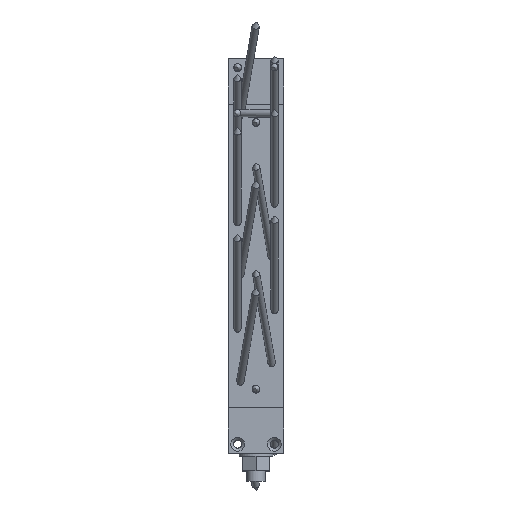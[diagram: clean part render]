
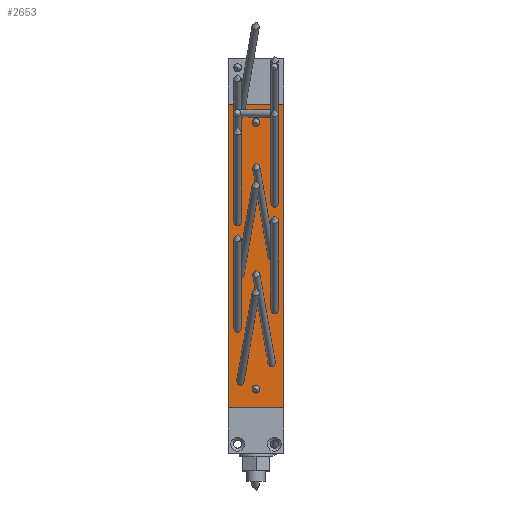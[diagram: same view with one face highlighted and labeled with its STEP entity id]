
A CAD part, top view. The second image highlights one B-rep face of the part: STEP entity #2653.
In plain terms, the highlighted planar face has unit normal (0, 0, 1) as drawn and (0, 0, -1) by its records, which use the part's own axes.
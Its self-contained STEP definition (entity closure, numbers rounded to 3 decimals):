
#276=CIRCLE('',#3123,4.25);
#277=CIRCLE('',#3124,4.25);
#362=ELLIPSE('',#3111,6.103,4.25);
#363=ELLIPSE('',#3112,6.103,4.25);
#364=ELLIPSE('',#3113,6.103,4.25);
#365=ELLIPSE('',#3114,6.01,4.25);
#366=ELLIPSE('',#3115,6.01,4.25);
#367=ELLIPSE('',#3116,6.103,4.25);
#368=ELLIPSE('',#3117,6.103,4.25);
#369=ELLIPSE('',#3118,4.316,4.25);
#370=ELLIPSE('',#3119,6.01,4.25);
#371=ELLIPSE('',#3120,6.01,4.25);
#372=ELLIPSE('',#3121,6.01,4.25);
#373=ELLIPSE('',#3122,6.01,4.25);
#461=ORIENTED_EDGE('',*,*,#1085,.F.);
#462=ORIENTED_EDGE('',*,*,#1086,.F.);
#463=ORIENTED_EDGE('',*,*,#1087,.F.);
#464=ORIENTED_EDGE('',*,*,#1088,.F.);
#465=ORIENTED_EDGE('',*,*,#1089,.F.);
#466=ORIENTED_EDGE('',*,*,#1090,.F.);
#467=ORIENTED_EDGE('',*,*,#1091,.F.);
#468=ORIENTED_EDGE('',*,*,#1092,.F.);
#469=ORIENTED_EDGE('',*,*,#1093,.F.);
#470=ORIENTED_EDGE('',*,*,#1094,.F.);
#471=ORIENTED_EDGE('',*,*,#1095,.F.);
#472=ORIENTED_EDGE('',*,*,#1096,.F.);
#473=ORIENTED_EDGE('',*,*,#1097,.F.);
#474=ORIENTED_EDGE('',*,*,#1098,.F.);
#475=ORIENTED_EDGE('',*,*,#1099,.F.);
#476=ORIENTED_EDGE('',*,*,#1100,.T.);
#477=ORIENTED_EDGE('',*,*,#1101,.T.);
#478=ORIENTED_EDGE('',*,*,#1083,.F.);
#1083=EDGE_CURVE('',#1392,#1393,#1629,.T.);
#1085=EDGE_CURVE('',#1394,#1394,#362,.T.);
#1086=EDGE_CURVE('',#1395,#1395,#363,.T.);
#1087=EDGE_CURVE('',#1396,#1396,#364,.T.);
#1088=EDGE_CURVE('',#1397,#1397,#365,.T.);
#1089=EDGE_CURVE('',#1398,#1398,#366,.T.);
#1090=EDGE_CURVE('',#1399,#1399,#367,.T.);
#1091=EDGE_CURVE('',#1400,#1400,#368,.T.);
#1092=EDGE_CURVE('',#1401,#1401,#369,.T.);
#1093=EDGE_CURVE('',#1402,#1402,#370,.T.);
#1094=EDGE_CURVE('',#1403,#1403,#371,.T.);
#1095=EDGE_CURVE('',#1404,#1404,#372,.T.);
#1096=EDGE_CURVE('',#1405,#1405,#373,.T.);
#1097=EDGE_CURVE('',#1406,#1406,#276,.T.);
#1098=EDGE_CURVE('',#1407,#1407,#277,.T.);
#1099=EDGE_CURVE('',#1408,#1392,#1631,.T.);
#1100=EDGE_CURVE('',#1408,#1409,#1632,.T.);
#1101=EDGE_CURVE('',#1409,#1393,#1633,.T.);
#1392=VERTEX_POINT('',#4365);
#1393=VERTEX_POINT('',#4367);
#1394=VERTEX_POINT('',#4371);
#1395=VERTEX_POINT('',#4373);
#1396=VERTEX_POINT('',#4375);
#1397=VERTEX_POINT('',#4377);
#1398=VERTEX_POINT('',#4379);
#1399=VERTEX_POINT('',#4381);
#1400=VERTEX_POINT('',#4383);
#1401=VERTEX_POINT('',#4385);
#1402=VERTEX_POINT('',#4387);
#1403=VERTEX_POINT('',#4389);
#1404=VERTEX_POINT('',#4391);
#1405=VERTEX_POINT('',#4393);
#1406=VERTEX_POINT('',#4395);
#1407=VERTEX_POINT('',#4397);
#1408=VERTEX_POINT('',#4399);
#1409=VERTEX_POINT('',#4401);
#1629=LINE('',#4366,#1841);
#1631=LINE('',#4398,#1843);
#1632=LINE('',#4400,#1844);
#1633=LINE('',#4402,#1845);
#1841=VECTOR('',#3499,1000.);
#1843=VECTOR('',#3531,1000.);
#1844=VECTOR('',#3532,1000.);
#1845=VECTOR('',#3533,1000.);
#2025=EDGE_LOOP('',(#461));
#2026=EDGE_LOOP('',(#462));
#2027=EDGE_LOOP('',(#463));
#2028=EDGE_LOOP('',(#464));
#2029=EDGE_LOOP('',(#465));
#2030=EDGE_LOOP('',(#466));
#2031=EDGE_LOOP('',(#467));
#2032=EDGE_LOOP('',(#468));
#2033=EDGE_LOOP('',(#469));
#2034=EDGE_LOOP('',(#470));
#2035=EDGE_LOOP('',(#471));
#2036=EDGE_LOOP('',(#472));
#2037=EDGE_LOOP('',(#473));
#2038=EDGE_LOOP('',(#474));
#2039=EDGE_LOOP('',(#475,#476,#477,#478));
#2301=FACE_BOUND('',#2025,.T.);
#2302=FACE_BOUND('',#2026,.T.);
#2303=FACE_BOUND('',#2027,.T.);
#2304=FACE_BOUND('',#2028,.T.);
#2305=FACE_BOUND('',#2029,.T.);
#2306=FACE_BOUND('',#2030,.T.);
#2307=FACE_BOUND('',#2031,.T.);
#2308=FACE_BOUND('',#2032,.T.);
#2309=FACE_BOUND('',#2033,.T.);
#2310=FACE_BOUND('',#2034,.T.);
#2311=FACE_BOUND('',#2035,.T.);
#2312=FACE_BOUND('',#2036,.T.);
#2313=FACE_BOUND('',#2037,.T.);
#2314=FACE_BOUND('',#2038,.T.);
#2315=FACE_BOUND('',#2039,.T.);
#2563=PLANE('',#3110);
#2653=ADVANCED_FACE('',(#2301,#2302,#2303,#2304,#2305,#2306,#2307,#2308,
#2309,#2310,#2311,#2312,#2313,#2314,#2315),#2563,.T.);
#3110=AXIS2_PLACEMENT_3D('',#4369,#3501,#3502);
#3111=AXIS2_PLACEMENT_3D('',#4370,#3503,#3504);
#3112=AXIS2_PLACEMENT_3D('',#4372,#3505,#3506);
#3113=AXIS2_PLACEMENT_3D('',#4374,#3507,#3508);
#3114=AXIS2_PLACEMENT_3D('',#4376,#3509,#3510);
#3115=AXIS2_PLACEMENT_3D('',#4378,#3511,#3512);
#3116=AXIS2_PLACEMENT_3D('',#4380,#3513,#3514);
#3117=AXIS2_PLACEMENT_3D('',#4382,#3515,#3516);
#3118=AXIS2_PLACEMENT_3D('',#4384,#3517,#3518);
#3119=AXIS2_PLACEMENT_3D('',#4386,#3519,#3520);
#3120=AXIS2_PLACEMENT_3D('',#4388,#3521,#3522);
#3121=AXIS2_PLACEMENT_3D('',#4390,#3523,#3524);
#3122=AXIS2_PLACEMENT_3D('',#4392,#3525,#3526);
#3123=AXIS2_PLACEMENT_3D('',#4394,#3527,#3528);
#3124=AXIS2_PLACEMENT_3D('',#4396,#3529,#3530);
#3499=DIRECTION('',(0.,-1.,0.));
#3501=DIRECTION('',(0.,0.,-1.));
#3502=DIRECTION('',(-1.,0.,0.));
#3503=DIRECTION('',(0.,0.,-1.));
#3504=DIRECTION('',(-0.171,0.985,0.));
#3505=DIRECTION('',(0.,0.,-1.));
#3506=DIRECTION('',(-0.171,0.985,0.));
#3507=DIRECTION('',(0.,0.,-1.));
#3508=DIRECTION('',(0.171,0.985,0.));
#3509=DIRECTION('',(0.,0.,-1.));
#3510=DIRECTION('',(0.,1.,0.));
#3511=DIRECTION('',(0.,0.,-1.));
#3512=DIRECTION('',(0.,1.,0.));
#3513=DIRECTION('',(0.,0.,-1.));
#3514=DIRECTION('',(0.171,0.985,0.));
#3515=DIRECTION('',(0.,0.,-1.));
#3516=DIRECTION('',(-0.171,0.985,0.));
#3517=DIRECTION('',(0.,0.,-1.));
#3518=DIRECTION('',(1.,0.,0.));
#3519=DIRECTION('',(0.,0.,-1.));
#3520=DIRECTION('',(0.,1.,0.));
#3521=DIRECTION('',(0.,0.,-1.));
#3522=DIRECTION('',(0.,1.,0.));
#3523=DIRECTION('',(0.,0.,-1.));
#3524=DIRECTION('',(0.,1.,0.));
#3525=DIRECTION('',(0.,0.,-1.));
#3526=DIRECTION('',(0.,1.,0.));
#3527=DIRECTION('',(0.,0.,-1.));
#3528=DIRECTION('',(-1.,0.,0.));
#3529=DIRECTION('',(0.,0.,-1.));
#3530=DIRECTION('',(-1.,0.,0.));
#3531=DIRECTION('',(-1.,0.,0.));
#3532=DIRECTION('',(0.,-1.,0.));
#3533=DIRECTION('',(-1.,0.,0.));
#4365=CARTESIAN_POINT('',(0.,350.,0.));
#4366=CARTESIAN_POINT('',(0.,370.,0.));
#4367=CARTESIAN_POINT('',(0.,20.,0.));
#4369=CARTESIAN_POINT('',(0.,370.,0.));
#4370=CARTESIAN_POINT('',(13.277,29.69,0.));
#4371=CARTESIAN_POINT('',(12.232,35.703,0.));
#4372=CARTESIAN_POINT('',(13.277,319.696,0.));
#4373=CARTESIAN_POINT('',(12.232,325.709,0.));
#4374=CARTESIAN_POINT('',(46.723,299.692,0.));
#4375=CARTESIAN_POINT('',(47.768,305.705,0.));
#4376=CARTESIAN_POINT('',(9.75,262.,0.));
#4377=CARTESIAN_POINT('',(9.75,268.01,0.));
#4378=CARTESIAN_POINT('',(50.25,242.,0.));
#4379=CARTESIAN_POINT('',(50.25,248.01,0.));
#4380=CARTESIAN_POINT('',(46.723,183.691,0.));
#4381=CARTESIAN_POINT('',(47.768,189.704,0.));
#4382=CARTESIAN_POINT('',(13.277,203.688,0.));
#4383=CARTESIAN_POINT('',(12.232,209.701,0.));
#4384=CARTESIAN_POINT('',(46.723,30.,0.));
#4385=CARTESIAN_POINT('',(51.039,30.,0.));
#4386=CARTESIAN_POINT('',(9.75,146.,0.));
#4387=CARTESIAN_POINT('',(9.75,152.01,0.));
#4388=CARTESIAN_POINT('',(50.25,126.,0.));
#4389=CARTESIAN_POINT('',(50.25,132.01,0.));
#4390=CARTESIAN_POINT('',(50.25,68.,0.));
#4391=CARTESIAN_POINT('',(50.25,74.01,0.));
#4392=CARTESIAN_POINT('',(9.75,88.,0.));
#4393=CARTESIAN_POINT('',(9.75,94.01,0.));
#4394=CARTESIAN_POINT('',(30.,330.,0.));
#4395=CARTESIAN_POINT('',(25.75,330.,0.));
#4396=CARTESIAN_POINT('',(30.,40.,0.));
#4397=CARTESIAN_POINT('',(25.75,40.,0.));
#4398=CARTESIAN_POINT('',(100.,350.,0.));
#4399=CARTESIAN_POINT('',(60.,350.,0.));
#4400=CARTESIAN_POINT('',(60.,370.,0.));
#4401=CARTESIAN_POINT('',(60.,20.,0.));
#4402=CARTESIAN_POINT('',(357.205,20.,0.));
